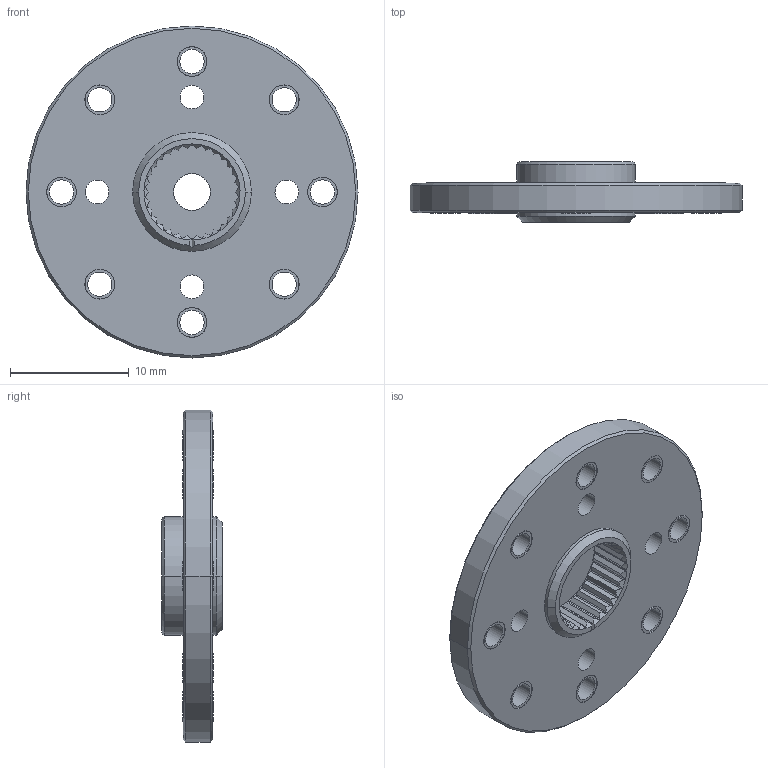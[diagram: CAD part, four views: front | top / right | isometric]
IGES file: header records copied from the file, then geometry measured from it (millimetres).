
Start section:  PTC IGES file: hn05_n102.igs
Global section: file name: hn05_n102.igs; native system: Pro/ENGINEER by Parametric Technology Corporation; preprocessor: 2011220; author: wook jang; organization: Unknown; date: 20121106.143314; units: millimetre
Bounding box: 28 x 5.1 x 28 mm (x, y, z)
Surface area: 2402.8 mm2 (no closed solid volume)
Topology: 0 solids, 0 shells, 206 faces, 1454 edges, 1656 vertices
Faces by surface type: revolution 139, bspline 67
